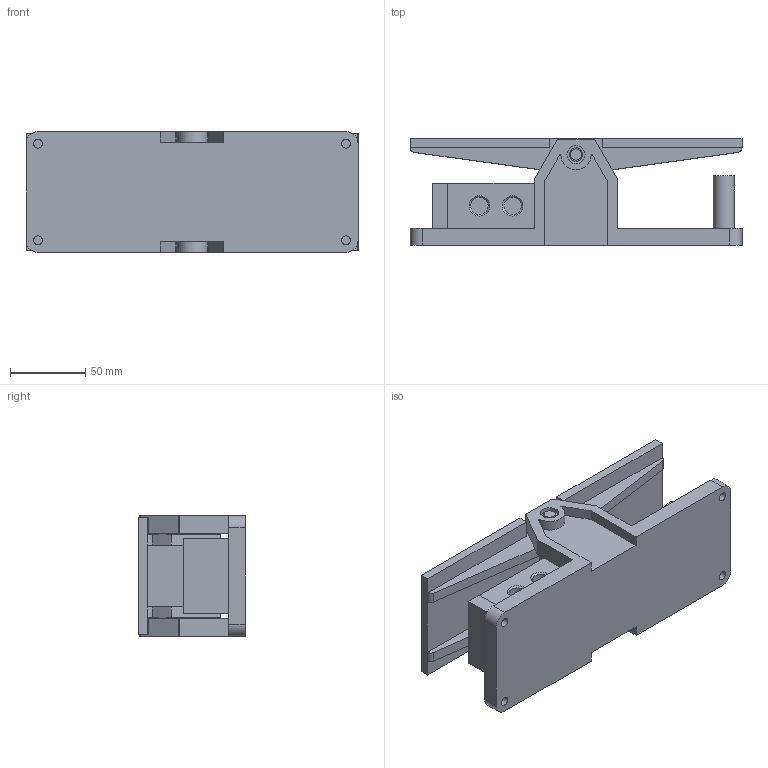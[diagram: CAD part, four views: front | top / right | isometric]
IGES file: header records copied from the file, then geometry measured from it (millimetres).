
Global section: file name: No Iges File Name specified; native system: AutoDesk Inventor R11.0; preprocessor: AutoDesk Inventor Iges Exporter R11.0; author: No Author specified; organization: No Organization specified; date: 20061219.113620; units: millimetre
Bounding box: 220 x 70.5 x 80 mm (x, y, z)
Volume: 529114.9 mm3; surface area: 122035.8 mm2
Topology: 2 solids, 2 shells, 151 faces, 388 edges, 254 vertices
Faces by surface type: plane 69, bspline 53, cylinder 21, revolution 8
